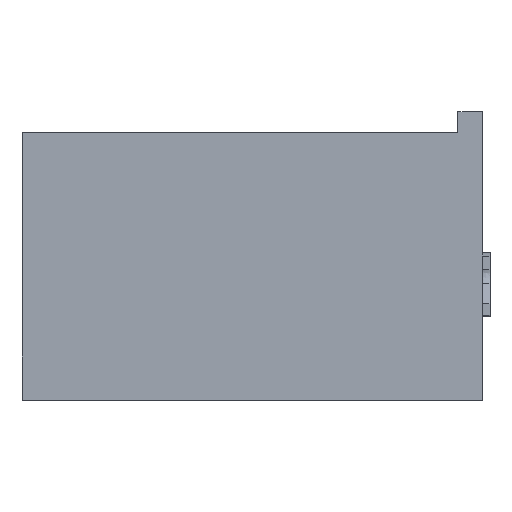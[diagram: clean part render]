
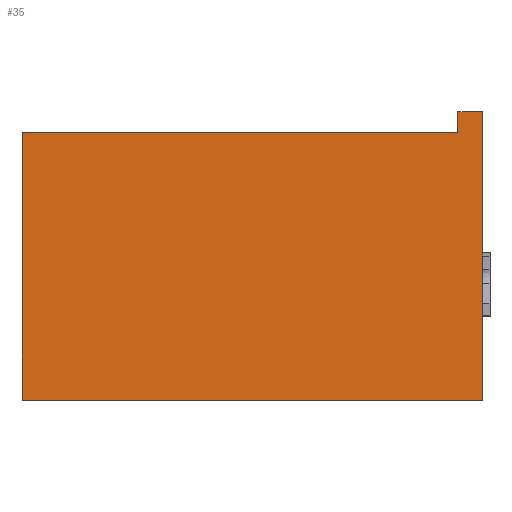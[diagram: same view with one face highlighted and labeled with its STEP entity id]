
A CAD part, left-side view. The second image highlights one B-rep face of the part: STEP entity #35.
In plain terms, the highlighted planar face has unit normal (-1, 0, 0).
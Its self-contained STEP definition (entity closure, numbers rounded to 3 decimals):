
#35 = ADVANCED_FACE('',(#36),#50,.F.);
#36 = FACE_BOUND('',#37,.F.);
#37 = EDGE_LOOP('',(#38,#73,#101,#129,#157,#185));
#38 = ORIENTED_EDGE('',*,*,#39,.F.);
#39 = EDGE_CURVE('',#40,#42,#44,.T.);
#40 = VERTEX_POINT('',#41);
#41 = CARTESIAN_POINT('',(-12.206,-3.,0.));
#42 = VERTEX_POINT('',#43);
#43 = CARTESIAN_POINT('',(-12.206,-3.,35.));
#44 = SURFACE_CURVE('',#45,(#49,#61),.PCURVE_S1.);
#45 = LINE('',#46,#47);
#46 = CARTESIAN_POINT('',(-12.206,-3.,0.));
#47 = VECTOR('',#48,1.);
#48 = DIRECTION('',(0.,0.,1.));
#49 = PCURVE('',#50,#55);
#50 = PLANE('',#51);
#51 = AXIS2_PLACEMENT_3D('',#52,#53,#54);
#52 = CARTESIAN_POINT('',(-12.206,-3.,0.));
#53 = DIRECTION('',(1.,0.,-0.));
#54 = DIRECTION('',(0.,0.,1.));
#55 = DEFINITIONAL_REPRESENTATION('',(#56),#60);
#56 = LINE('',#57,#58);
#57 = CARTESIAN_POINT('',(0.,0.));
#58 = VECTOR('',#59,1.);
#59 = DIRECTION('',(1.,0.));
#60 = ( GEOMETRIC_REPRESENTATION_CONTEXT(2) 
PARAMETRIC_REPRESENTATION_CONTEXT() REPRESENTATION_CONTEXT('2D SPACE',''
  ) );
#61 = PCURVE('',#62,#67);
#62 = PLANE('',#63);
#63 = AXIS2_PLACEMENT_3D('',#64,#65,#66);
#64 = CARTESIAN_POINT('',(-12.206,-3.,0.));
#65 = DIRECTION('',(-0.,1.,0.));
#66 = DIRECTION('',(0.,0.,1.));
#67 = DEFINITIONAL_REPRESENTATION('',(#68),#72);
#68 = LINE('',#69,#70);
#69 = CARTESIAN_POINT('',(0.,0.));
#70 = VECTOR('',#71,1.);
#71 = DIRECTION('',(1.,0.));
#72 = ( GEOMETRIC_REPRESENTATION_CONTEXT(2) 
PARAMETRIC_REPRESENTATION_CONTEXT() REPRESENTATION_CONTEXT('2D SPACE',''
  ) );
#73 = ORIENTED_EDGE('',*,*,#74,.F.);
#74 = EDGE_CURVE('',#75,#40,#77,.T.);
#75 = VERTEX_POINT('',#76);
#76 = CARTESIAN_POINT('',(-12.206,52.935,0.));
#77 = SURFACE_CURVE('',#78,(#82,#89),.PCURVE_S1.);
#78 = LINE('',#79,#80);
#79 = CARTESIAN_POINT('',(-12.206,52.935,0.));
#80 = VECTOR('',#81,1.);
#81 = DIRECTION('',(0.,-1.,0.));
#82 = PCURVE('',#50,#83);
#83 = DEFINITIONAL_REPRESENTATION('',(#84),#88);
#84 = LINE('',#85,#86);
#85 = CARTESIAN_POINT('',(0.,-55.935));
#86 = VECTOR('',#87,1.);
#87 = DIRECTION('',(0.,1.));
#88 = ( GEOMETRIC_REPRESENTATION_CONTEXT(2) 
PARAMETRIC_REPRESENTATION_CONTEXT() REPRESENTATION_CONTEXT('2D SPACE',''
  ) );
#89 = PCURVE('',#90,#95);
#90 = PLANE('',#91);
#91 = AXIS2_PLACEMENT_3D('',#92,#93,#94);
#92 = CARTESIAN_POINT('',(-12.206,-3.,0.));
#93 = DIRECTION('',(0.,0.,1.));
#94 = DIRECTION('',(1.,0.,-0.));
#95 = DEFINITIONAL_REPRESENTATION('',(#96),#100);
#96 = LINE('',#97,#98);
#97 = CARTESIAN_POINT('',(0.,55.935));
#98 = VECTOR('',#99,1.);
#99 = DIRECTION('',(0.,-1.));
#100 = ( GEOMETRIC_REPRESENTATION_CONTEXT(2) 
PARAMETRIC_REPRESENTATION_CONTEXT() REPRESENTATION_CONTEXT('2D SPACE',''
  ) );
#101 = ORIENTED_EDGE('',*,*,#102,.T.);
#102 = EDGE_CURVE('',#75,#103,#105,.T.);
#103 = VERTEX_POINT('',#104);
#104 = CARTESIAN_POINT('',(-12.206,52.935,32.5));
#105 = SURFACE_CURVE('',#106,(#110,#117),.PCURVE_S1.);
#106 = LINE('',#107,#108);
#107 = CARTESIAN_POINT('',(-12.206,52.935,0.));
#108 = VECTOR('',#109,1.);
#109 = DIRECTION('',(0.,0.,1.));
#110 = PCURVE('',#50,#111);
#111 = DEFINITIONAL_REPRESENTATION('',(#112),#116);
#112 = LINE('',#113,#114);
#113 = CARTESIAN_POINT('',(0.,-55.935));
#114 = VECTOR('',#115,1.);
#115 = DIRECTION('',(1.,0.));
#116 = ( GEOMETRIC_REPRESENTATION_CONTEXT(2) 
PARAMETRIC_REPRESENTATION_CONTEXT() REPRESENTATION_CONTEXT('2D SPACE',''
  ) );
#117 = PCURVE('',#118,#123);
#118 = PLANE('',#119);
#119 = AXIS2_PLACEMENT_3D('',#120,#121,#122);
#120 = CARTESIAN_POINT('',(-12.206,52.935,0.));
#121 = DIRECTION('',(-0.,1.,0.));
#122 = DIRECTION('',(0.,0.,1.));
#123 = DEFINITIONAL_REPRESENTATION('',(#124),#128);
#124 = LINE('',#125,#126);
#125 = CARTESIAN_POINT('',(0.,0.));
#126 = VECTOR('',#127,1.);
#127 = DIRECTION('',(1.,0.));
#128 = ( GEOMETRIC_REPRESENTATION_CONTEXT(2) 
PARAMETRIC_REPRESENTATION_CONTEXT() REPRESENTATION_CONTEXT('2D SPACE',''
  ) );
#129 = ORIENTED_EDGE('',*,*,#130,.F.);
#130 = EDGE_CURVE('',#131,#103,#133,.T.);
#131 = VERTEX_POINT('',#132);
#132 = CARTESIAN_POINT('',(-12.206,0.,32.5));
#133 = SURFACE_CURVE('',#134,(#138,#145),.PCURVE_S1.);
#134 = LINE('',#135,#136);
#135 = CARTESIAN_POINT('',(-12.206,0.,32.5));
#136 = VECTOR('',#137,1.);
#137 = DIRECTION('',(-0.,1.,0.));
#138 = PCURVE('',#50,#139);
#139 = DEFINITIONAL_REPRESENTATION('',(#140),#144);
#140 = LINE('',#141,#142);
#141 = CARTESIAN_POINT('',(32.5,-3.));
#142 = VECTOR('',#143,1.);
#143 = DIRECTION('',(0.,-1.));
#144 = ( GEOMETRIC_REPRESENTATION_CONTEXT(2) 
PARAMETRIC_REPRESENTATION_CONTEXT() REPRESENTATION_CONTEXT('2D SPACE',''
  ) );
#145 = PCURVE('',#146,#151);
#146 = PLANE('',#147);
#147 = AXIS2_PLACEMENT_3D('',#148,#149,#150);
#148 = CARTESIAN_POINT('',(-12.206,0.,32.5));
#149 = DIRECTION('',(0.,0.,1.));
#150 = DIRECTION('',(1.,0.,-0.));
#151 = DEFINITIONAL_REPRESENTATION('',(#152),#156);
#152 = LINE('',#153,#154);
#153 = CARTESIAN_POINT('',(0.,0.));
#154 = VECTOR('',#155,1.);
#155 = DIRECTION('',(0.,1.));
#156 = ( GEOMETRIC_REPRESENTATION_CONTEXT(2) 
PARAMETRIC_REPRESENTATION_CONTEXT() REPRESENTATION_CONTEXT('2D SPACE',''
  ) );
#157 = ORIENTED_EDGE('',*,*,#158,.T.);
#158 = EDGE_CURVE('',#131,#159,#161,.T.);
#159 = VERTEX_POINT('',#160);
#160 = CARTESIAN_POINT('',(-12.206,0.,35.));
#161 = SURFACE_CURVE('',#162,(#166,#173),.PCURVE_S1.);
#162 = LINE('',#163,#164);
#163 = CARTESIAN_POINT('',(-12.206,0.,0.));
#164 = VECTOR('',#165,1.);
#165 = DIRECTION('',(0.,0.,1.));
#166 = PCURVE('',#50,#167);
#167 = DEFINITIONAL_REPRESENTATION('',(#168),#172);
#168 = LINE('',#169,#170);
#169 = CARTESIAN_POINT('',(0.,-3.));
#170 = VECTOR('',#171,1.);
#171 = DIRECTION('',(1.,0.));
#172 = ( GEOMETRIC_REPRESENTATION_CONTEXT(2) 
PARAMETRIC_REPRESENTATION_CONTEXT() REPRESENTATION_CONTEXT('2D SPACE',''
  ) );
#173 = PCURVE('',#174,#179);
#174 = PLANE('',#175);
#175 = AXIS2_PLACEMENT_3D('',#176,#177,#178);
#176 = CARTESIAN_POINT('',(-12.206,0.,0.));
#177 = DIRECTION('',(-0.,1.,0.));
#178 = DIRECTION('',(0.,0.,1.));
#179 = DEFINITIONAL_REPRESENTATION('',(#180),#184);
#180 = LINE('',#181,#182);
#181 = CARTESIAN_POINT('',(0.,0.));
#182 = VECTOR('',#183,1.);
#183 = DIRECTION('',(1.,0.));
#184 = ( GEOMETRIC_REPRESENTATION_CONTEXT(2) 
PARAMETRIC_REPRESENTATION_CONTEXT() REPRESENTATION_CONTEXT('2D SPACE',''
  ) );
#185 = ORIENTED_EDGE('',*,*,#186,.F.);
#186 = EDGE_CURVE('',#42,#159,#187,.T.);
#187 = SURFACE_CURVE('',#188,(#192,#199),.PCURVE_S1.);
#188 = LINE('',#189,#190);
#189 = CARTESIAN_POINT('',(-12.206,-3.,35.));
#190 = VECTOR('',#191,1.);
#191 = DIRECTION('',(-0.,1.,0.));
#192 = PCURVE('',#50,#193);
#193 = DEFINITIONAL_REPRESENTATION('',(#194),#198);
#194 = LINE('',#195,#196);
#195 = CARTESIAN_POINT('',(35.,0.));
#196 = VECTOR('',#197,1.);
#197 = DIRECTION('',(0.,-1.));
#198 = ( GEOMETRIC_REPRESENTATION_CONTEXT(2) 
PARAMETRIC_REPRESENTATION_CONTEXT() REPRESENTATION_CONTEXT('2D SPACE',''
  ) );
#199 = PCURVE('',#200,#205);
#200 = PLANE('',#201);
#201 = AXIS2_PLACEMENT_3D('',#202,#203,#204);
#202 = CARTESIAN_POINT('',(-12.206,-3.,35.));
#203 = DIRECTION('',(0.,0.,1.));
#204 = DIRECTION('',(1.,0.,-0.));
#205 = DEFINITIONAL_REPRESENTATION('',(#206),#210);
#206 = LINE('',#207,#208);
#207 = CARTESIAN_POINT('',(0.,0.));
#208 = VECTOR('',#209,1.);
#209 = DIRECTION('',(0.,1.));
#210 = ( GEOMETRIC_REPRESENTATION_CONTEXT(2) 
PARAMETRIC_REPRESENTATION_CONTEXT() REPRESENTATION_CONTEXT('2D SPACE',''
  ) );
